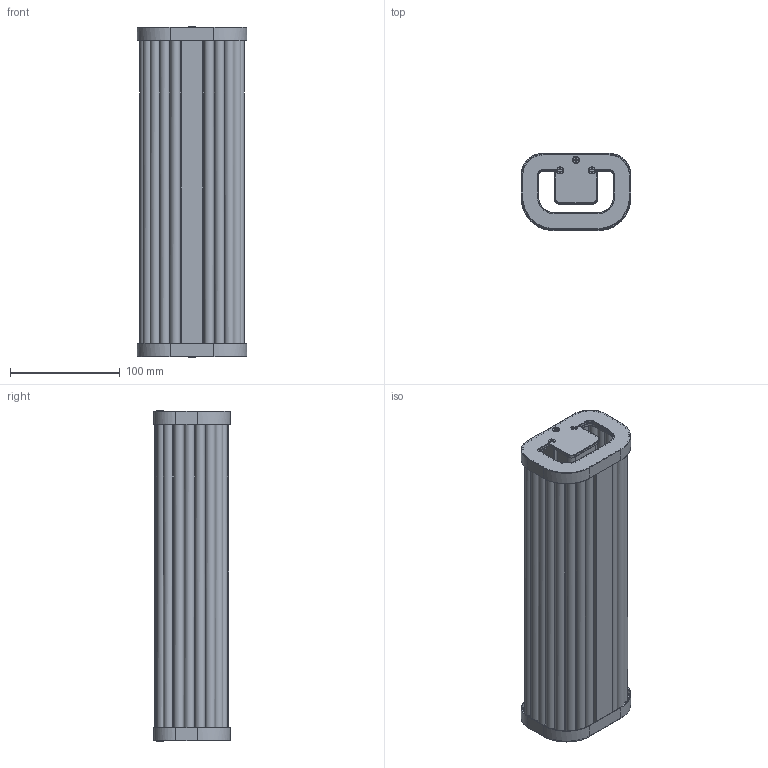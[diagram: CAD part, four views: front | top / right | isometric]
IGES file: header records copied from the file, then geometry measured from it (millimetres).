
Start section: SolidWorks IGES file using analytic representation for surfaces
Global section: file name: \\srvficheros\grupos\DISENYO\DESARROLLO DE PRODUCTO\_3D_WEB\DIVINO-A4005070\DIVINO-A4005070.IGS; native system: SolidWorks 2025; preprocessor: SolidWorks 2025; author: d.pons; date: 260113.112644; units: millimetre
Bounding box: 100 x 70 x 301.2 mm (x, y, z)
Surface area: 431706.2 mm2 (no closed solid volume)
Topology: 0 solids, 0 shells, 1182 faces, 15076 edges, 15076 vertices
Faces by surface type: revolution 613, bspline 569
